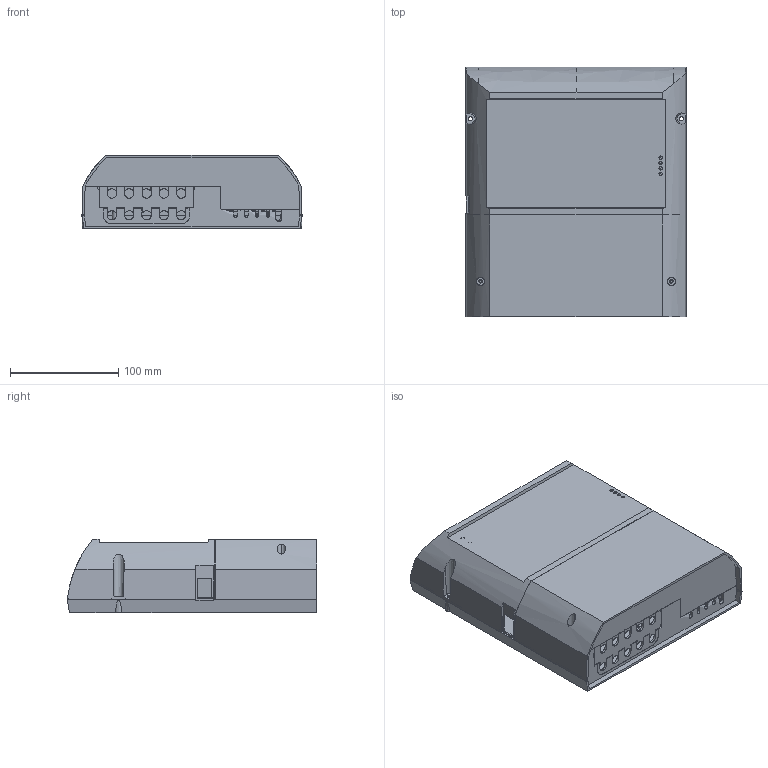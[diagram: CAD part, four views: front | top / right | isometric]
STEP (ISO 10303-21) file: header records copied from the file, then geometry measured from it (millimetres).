
FILE_DESCRIPTION (( 'STEP AP203' ), '1' );
FILE_NAME ('BWC330Pro_Sterownik_instalacyjny_9033000_0_3D_AFRISO.STEP', '2026-03-16T09:54:50', ( '' ), ( '' ), 'SwSTEP 2.0', 'SolidWorks 2024', '' );
FILE_SCHEMA (( 'CONFIG_CONTROL_DESIGN' ));
Length unit declared in the file: millimetre
Products named in the file (5): pokrywa; przepusty; podstawa; pokrywa_złącz; BWC330Pro_Sterownik_instalacyjny_9033000_0_3D_AFRISO
Assembly tree (4 placements, depth 2):
  BWC330Pro_Sterownik_instalacyjny_9033000_0_3D_AFRISO
    podstawa
    pokrywa
    pokrywa_złącz
    przepusty
Bounding box: 203 x 230 x 68 mm (x, y, z)
Volume: 195707.1 mm3; surface area: 328207.4 mm2
Topology: 3 solids, 4 shells, 1059 faces, 2870 edges, 1869 vertices
Faces by surface type: plane 706, cylinder 159, cone 114, bspline 80
Entity records: 44817 total; most frequent: CARTESIAN_POINT 21504, ORIENTED_EDGE 5688, DIRECTION 3231, EDGE_CURVE 2850, VERTEX_POINT 1869, B_SPLINE_CURVE_WITH_KNOTS 1691, AXIS2_PLACEMENT_3D 1179, EDGE_LOOP 1155
